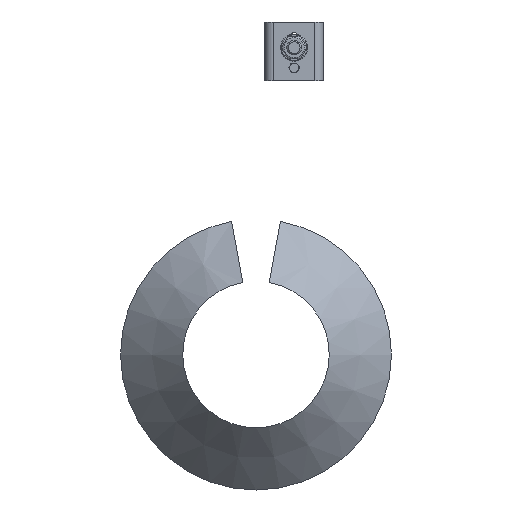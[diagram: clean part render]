
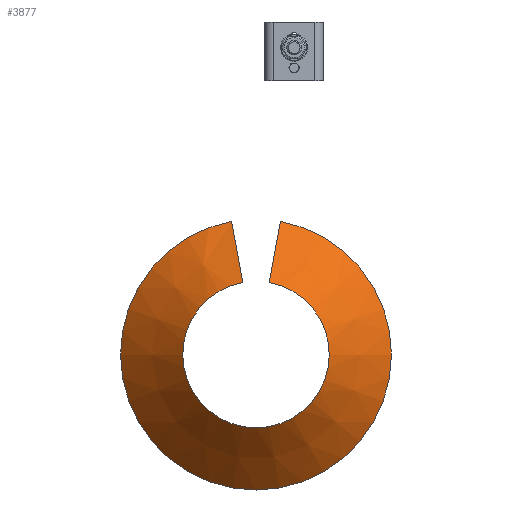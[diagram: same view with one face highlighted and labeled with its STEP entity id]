
A CAD part, left-side view. The second image highlights one B-rep face of the part: STEP entity #3877.
In plain terms, the highlighted conical face has half-angle 45 degrees and reference radius 184.853 mm.
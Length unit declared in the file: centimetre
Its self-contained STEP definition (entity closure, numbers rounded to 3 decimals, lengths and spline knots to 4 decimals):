
#142=CONICAL_SURFACE('',#4128,18.4853,45.);
#161=CIRCLE('',#4123,10.);
#162=CIRCLE('',#4124,10.);
#163=CIRCLE('',#4126,18.4853);
#164=CIRCLE('',#4127,18.4853);
#515=FACE_OUTER_BOUND('',#752,.T.);
#752=EDGE_LOOP('',(#2628,#2629,#2630,#2631,#2632,#2633));
#1029=LINE('',#5918,#1341);
#1032=LINE('',#5925,#1344);
#1341=VECTOR('',#4616,12.);
#1344=VECTOR('',#4621,12.);
#1653=VERTEX_POINT('',#5916);
#1654=VERTEX_POINT('',#5917);
#1656=VERTEX_POINT('',#5923);
#1657=VERTEX_POINT('',#5924);
#1660=VERTEX_POINT('',#5933);
#1661=VERTEX_POINT('',#5937);
#2033=EDGE_CURVE('',#1653,#1654,#1029,.T.);
#2036=EDGE_CURVE('',#1656,#1657,#1032,.T.);
#2041=EDGE_CURVE('',#1660,#1656,#161,.T.);
#2042=EDGE_CURVE('',#1654,#1660,#162,.T.);
#2043=EDGE_CURVE('',#1661,#1653,#163,.T.);
#2044=EDGE_CURVE('',#1657,#1661,#164,.T.);
#2628=ORIENTED_EDGE('',*,*,#2044,.T.);
#2629=ORIENTED_EDGE('',*,*,#2043,.T.);
#2630=ORIENTED_EDGE('',*,*,#2033,.T.);
#2631=ORIENTED_EDGE('',*,*,#2042,.T.);
#2632=ORIENTED_EDGE('',*,*,#2041,.T.);
#2633=ORIENTED_EDGE('',*,*,#2036,.T.);
#3877=ADVANCED_FACE('',(#515),#142,.T.);
#4123=AXIS2_PLACEMENT_3D('',#5934,#4630,#4631);
#4124=AXIS2_PLACEMENT_3D('',#5935,#4632,#4633);
#4126=AXIS2_PLACEMENT_3D('',#5938,#4636,#4637);
#4127=AXIS2_PLACEMENT_3D('',#5939,#4638,#4639);
#4128=AXIS2_PLACEMENT_3D('',#5940,#4640,#4641);
#4616=DIRECTION('',(-0.707,0.127,-0.696));
#4621=DIRECTION('',(0.707,0.127,0.696));
#4630=DIRECTION('center_axis',(1.,0.,0.));
#4631=DIRECTION('ref_axis',(0.,0.,
1.));
#4632=DIRECTION('center_axis',(1.,0.,0.));
#4633=DIRECTION('ref_axis',(0.,0.,
1.));
#4636=DIRECTION('center_axis',(-1.,0.,0.));
#4637=DIRECTION('ref_axis',(0.,0.,
1.));
#4638=DIRECTION('center_axis',(-1.,0.,0.));
#4639=DIRECTION('ref_axis',(0.,0.,
1.));
#4640=DIRECTION('center_axis',(1.,0.,0.));
#4641=DIRECTION('ref_axis',(0.,0.,1.));
#5916=CARTESIAN_POINT('',(-23.3266,2.4579,-28.3666));
#5917=CARTESIAN_POINT('',(-31.8119,3.9868,-36.713));
#5918=CARTESIAN_POINT('',(-23.3266,2.4579,-28.3666));
#5923=CARTESIAN_POINT('',(-31.8119,7.5905,-36.713));
#5924=CARTESIAN_POINT('',(-23.3266,9.1194,-28.3666));
#5925=CARTESIAN_POINT('',(-31.8119,7.5905,-36.713));
#5933=CARTESIAN_POINT('',(-31.8119,5.7887,-56.5493));
#5934=CARTESIAN_POINT('Origin',(-31.8119,5.7887,-46.5493));
#5935=CARTESIAN_POINT('Origin',(-31.8119,5.7887,-46.5493));
#5937=CARTESIAN_POINT('',(-23.3266,5.7887,-65.0346));
#5938=CARTESIAN_POINT('Origin',(-23.3266,5.7887,-46.5493));
#5939=CARTESIAN_POINT('Origin',(-23.3266,5.7887,-46.5493));
#5940=CARTESIAN_POINT('Origin',(-23.3266,5.7887,-46.5493));
